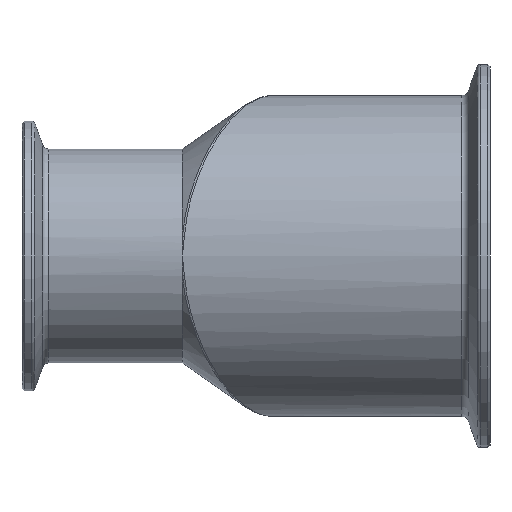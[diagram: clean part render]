
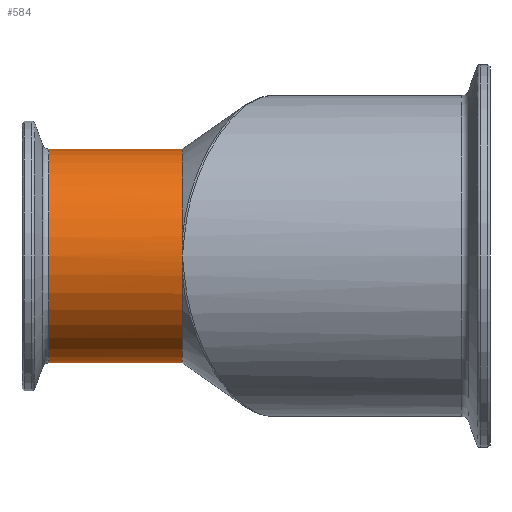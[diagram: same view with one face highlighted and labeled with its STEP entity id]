
A CAD part, front view. The second image highlights one B-rep face of the part: STEP entity #584.
In plain terms, the highlighted cylindrical face has radius 25.4 mm (diameter 50.8 mm), a partial arc.
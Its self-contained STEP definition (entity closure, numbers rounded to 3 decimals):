
#19 = FACE_OUTER_BOUND ( 'NONE', #1993, .T. ) ;
#37 = AXIS2_PLACEMENT_3D ( 'NONE', #2276, #1054, #2485 ) ;
#121 = CARTESIAN_POINT ( 'NONE',  ( -31.401, -12.7, -25.4 ) ) ;
#234 = CARTESIAN_POINT ( 'NONE',  ( 38.1, -12.7, -25.4 ) ) ;
#296 = LINE ( 'NONE', #121, #2374 ) ;
#305 = VERTEX_POINT ( 'NONE', #234 ) ;
#348 = CARTESIAN_POINT ( 'NONE',  ( 38.1, -12.7, 25.4 ) ) ;
#354 = VERTEX_POINT ( 'NONE', #532 ) ;
#407 = VERTEX_POINT ( 'NONE', #348 ) ;
#432 = ORIENTED_EDGE ( 'NONE', *, *, #2462, .F. ) ;
#441 = CARTESIAN_POINT ( 'NONE',  ( 38.1, -37.663, -4.691 ) ) ;
#519 = AXIS2_PLACEMENT_3D ( 'NONE', #2008, #777, #2207 ) ;
#532 = CARTESIAN_POINT ( 'NONE',  ( 6.373, -12.7, 25.4 ) ) ;
#562 = CARTESIAN_POINT ( 'NONE',  ( 6.373, -12.7, 0. ) ) ;
#584 = ADVANCED_FACE ( 'NONE', ( #19 ), #1038, .T. ) ;
#622 = EDGE_CURVE ( 'NONE', #407, #354, #1581, .T. ) ;
#639 = ORIENTED_EDGE ( 'NONE', *, *, #2401, .T. ) ;
#640 = CARTESIAN_POINT ( 'NONE',  ( 38.1, -38.1, 0. ) ) ;
#691 = CIRCLE ( 'NONE', #1650, 25.4 ) ;
#717 = AXIS2_PLACEMENT_3D ( 'NONE', #562, #2013, #780 ) ;
#737 = VERTEX_POINT ( 'NONE', #2527 ) ;
#777 = DIRECTION ( 'NONE',  ( -1., 0., 0. ) ) ;
#780 = DIRECTION ( 'NONE',  ( 0., 0., 1. ) ) ;
#801 = CIRCLE ( 'NONE', #717, 25.4 ) ;
#893 = VECTOR ( 'NONE', #2166, 1000. ) ;
#1038 = CYLINDRICAL_SURFACE ( 'NONE', #2264, 25.4 ) ;
#1054 = DIRECTION ( 'NONE',  ( -1., 0., 0. ) ) ;
#1057 = CARTESIAN_POINT ( 'NONE',  ( 38.1, -12.7, 0. ) ) ;
#1172 = EDGE_CURVE ( 'NONE', #737, #354, #801, .T. ) ;
#1182 = DIRECTION ( 'NONE',  ( -1., 0., 0. ) ) ;
#1276 = DIRECTION ( 'NONE',  ( 0., 0., 1. ) ) ;
#1314 = EDGE_CURVE ( 'NONE', #2675, #2080, #2177, .T. ) ;
#1377 = ORIENTED_EDGE ( 'NONE', *, *, #622, .T. ) ;
#1444 = ORIENTED_EDGE ( 'NONE', *, *, #1172, .F. ) ;
#1581 = LINE ( 'NONE', #2137, #893 ) ;
#1650 = AXIS2_PLACEMENT_3D ( 'NONE', #1057, #2488, #1276 ) ;
#1770 = EDGE_CURVE ( 'NONE', #2437, #407, #691, .T. ) ;
#1796 = CARTESIAN_POINT ( 'NONE',  ( -31.401, -12.7, 0. ) ) ;
#1954 = ORIENTED_EDGE ( 'NONE', *, *, #1314, .T. ) ;
#1965 = CIRCLE ( 'NONE', #2275, 25.4 ) ;
#1993 = EDGE_LOOP ( 'NONE', ( #432, #2522, #1954, #639, #2211, #1377, #1444 ) ) ;
#2008 = CARTESIAN_POINT ( 'NONE',  ( 38.1, -12.7, 0. ) ) ;
#2013 = DIRECTION ( 'NONE',  ( -1., 0., 0. ) ) ;
#2072 = EDGE_CURVE ( 'NONE', #305, #2675, #2691, .T. ) ;
#2080 = VERTEX_POINT ( 'NONE', #640 ) ;
#2137 = CARTESIAN_POINT ( 'NONE',  ( -31.401, -12.7, 25.4 ) ) ;
#2166 = DIRECTION ( 'NONE',  ( -1., 0., 0. ) ) ;
#2177 = CIRCLE ( 'NONE', #519, 25.4 ) ;
#2205 = CARTESIAN_POINT ( 'NONE',  ( 38.1, -37.663, 4.691 ) ) ;
#2207 = DIRECTION ( 'NONE',  ( 0., 0., 1. ) ) ;
#2211 = ORIENTED_EDGE ( 'NONE', *, *, #1770, .T. ) ;
#2264 = AXIS2_PLACEMENT_3D ( 'NONE', #1796, #2652, #2457 ) ;
#2275 = AXIS2_PLACEMENT_3D ( 'NONE', #2396, #1182, #2615 ) ;
#2276 = CARTESIAN_POINT ( 'NONE',  ( 38.1, -12.7, 0. ) ) ;
#2374 = VECTOR ( 'NONE', #2409, 1000. ) ;
#2396 = CARTESIAN_POINT ( 'NONE',  ( 38.1, -12.7, 0. ) ) ;
#2401 = EDGE_CURVE ( 'NONE', #2080, #2437, #1965, .T. ) ;
#2409 = DIRECTION ( 'NONE',  ( -1., 0., 0. ) ) ;
#2437 = VERTEX_POINT ( 'NONE', #2205 ) ;
#2457 = DIRECTION ( 'NONE',  ( 0., 0., 1. ) ) ;
#2462 = EDGE_CURVE ( 'NONE', #305, #737, #296, .T. ) ;
#2485 = DIRECTION ( 'NONE',  ( 0., 0., 1. ) ) ;
#2488 = DIRECTION ( 'NONE',  ( -1., 0., 0. ) ) ;
#2522 = ORIENTED_EDGE ( 'NONE', *, *, #2072, .T. ) ;
#2527 = CARTESIAN_POINT ( 'NONE',  ( 6.373, -12.7, -25.4 ) ) ;
#2615 = DIRECTION ( 'NONE',  ( 0., 0., 1. ) ) ;
#2652 = DIRECTION ( 'NONE',  ( -1., 0., 0. ) ) ;
#2675 = VERTEX_POINT ( 'NONE', #441 ) ;
#2691 = CIRCLE ( 'NONE', #37, 25.4 ) ;
